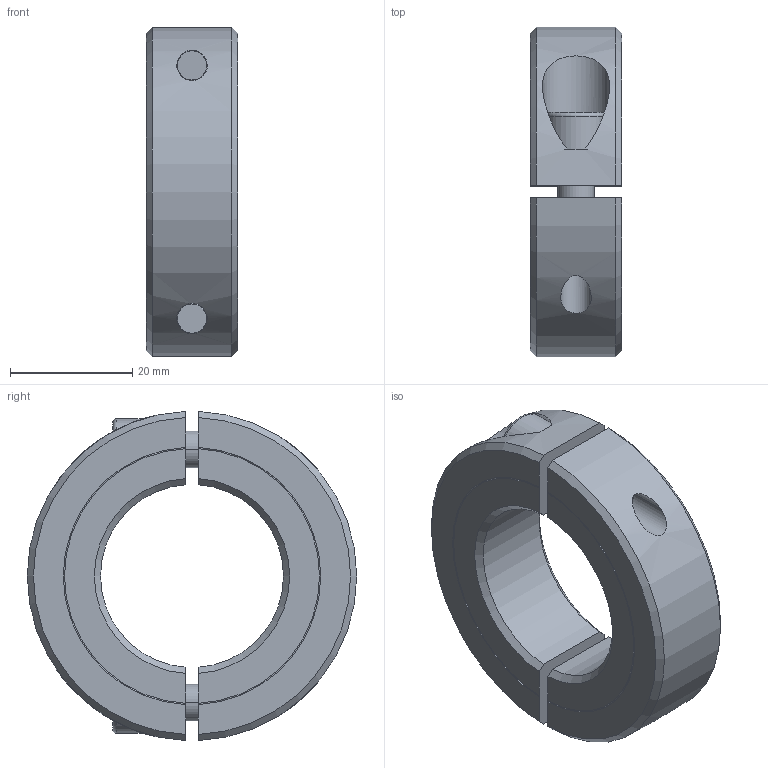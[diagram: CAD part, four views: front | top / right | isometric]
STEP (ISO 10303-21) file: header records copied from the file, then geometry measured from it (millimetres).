
FILE_DESCRIPTION((''),'2;1');
FILE_NAME('131-000-0030_ASM','2013-12-20T',('Brieden'),('brieden'),'PRO/ENGINEER BY PARAMETRIC TECHNOLOGY CORPORATION, 2005030','PRO/ENGINEER BY PARAMETRIC TECHNOLOGY CORPORATION, 2005030','');
FILE_SCHEMA(('AUTOMOTIVE_DESIGN_CC2 { 1 2 10303 214 -1 1 5 2 }'));
Length unit declared in the file: millimetre
Products named in the file (4): 131-000-0030-DB_PRT; 131-000-0030-TH_PRT; D912-M6X18_PRT; 131-000-0030_ASM
Assembly tree (4 placements, depth 2):
  131-000-0030_ASM
    131-000-0030-DB_PRT
    131-000-0030-TH_PRT
    D912-M6X18_PRT  x2
Bounding box: 15 x 54 x 53.96 mm (x, y, z)
Volume: 21722.3 mm3; surface area: 9764 mm2
Topology: 4 solids, 4 shells, 94 faces, 214 edges, 136 vertices
Faces by surface type: plane 34, cylinder 26, cone 20, torus 14
Entity records: 2319 total; most frequent: CARTESIAN_POINT 618, DIRECTION 348, ORIENTED_EDGE 312, EDGE_CURVE 156, AXIS2_PLACEMENT_3D 143, VERTEX_POINT 100, EDGE_LOOP 80, CIRCLE 68
